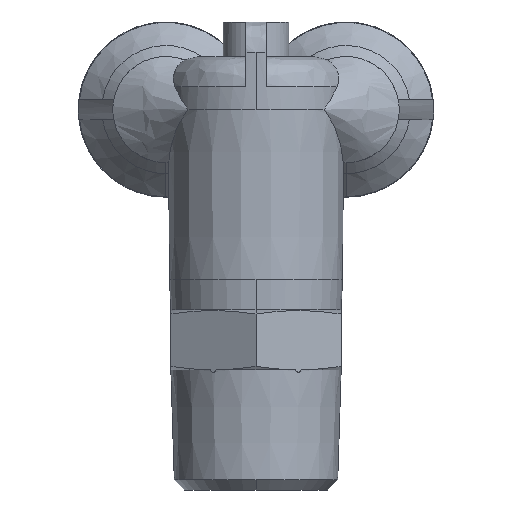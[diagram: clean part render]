
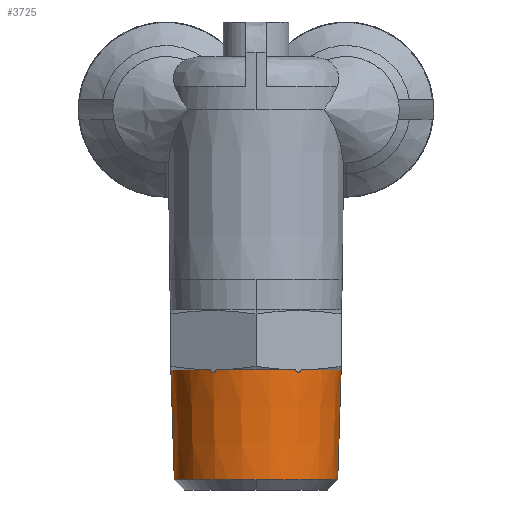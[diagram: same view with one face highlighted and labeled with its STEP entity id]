
A CAD part, left-side view. The second image highlights one B-rep face of the part: STEP entity #3725.
In plain terms, the highlighted conical face has half-angle 1.79 degrees and reference radius 8.508 mm.
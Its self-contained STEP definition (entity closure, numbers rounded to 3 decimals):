
#6 = ORIENTED_EDGE ( 'NONE', *, *, #3081, .F. ) ;
#61 = DIRECTION ( 'NONE',  ( 0., -1., 0. ) ) ;
#95 = CIRCLE ( 'NONE', #1120, 8.508 ) ;
#112 = VERTEX_POINT ( 'NONE', #905 ) ;
#212 = CARTESIAN_POINT ( 'NONE',  ( 0., -8.5, 11.758 ) ) ;
#284 = DIRECTION ( 'NONE',  ( 0., -0.031, 1. ) ) ;
#306 = DIRECTION ( 'NONE',  ( 0., 0., 1. ) ) ;
#363 = CARTESIAN_POINT ( 'NONE',  ( -7.398, -4.186, 11.758 ) ) ;
#385 = CARTESIAN_POINT ( 'NONE',  ( 0., 0., 12. ) ) ;
#449 = EDGE_CURVE ( 'NONE', #1686, #932, #3644, .T. ) ;
#453 = ORIENTED_EDGE ( 'NONE', *, *, #546, .T. ) ;
#468 = CARTESIAN_POINT ( 'NONE',  ( -7.323, -4.316, 11.758 ) ) ;
#506 = CARTESIAN_POINT ( 'NONE',  ( -0.314, 8.5, 11.94 ) ) ;
#518 = ORIENTED_EDGE ( 'NONE', *, *, #5290, .T. ) ;
#528 = CARTESIAN_POINT ( 'NONE',  ( -7.518, 3.978, 11.94 ) ) ;
#535 = CARTESIAN_POINT ( 'NONE',  ( -7.182, -4.561, 12. ) ) ;
#546 = EDGE_CURVE ( 'NONE', #3977, #3742, #4835, .T. ) ;
#556 = CARTESIAN_POINT ( 'NONE',  ( -7.228, -4.48, 11.884 ) ) ;
#579 = CARTESIAN_POINT ( 'NONE',  ( -7.182, -4.561, 12. ) ) ;
#584 = LINE ( 'NONE', #872, #3948 ) ;
#648 = CARTESIAN_POINT ( 'NONE',  ( 0., 0., 12. ) ) ;
#652 = CARTESIAN_POINT ( 'NONE',  ( -0.264, -8.5, 11.883 ) ) ;
#698 = VERTEX_POINT ( 'NONE', #579 ) ;
#716 = CARTESIAN_POINT ( 'NONE',  ( -0.359, -8.5, 12. ) ) ;
#729 = CARTESIAN_POINT ( 'NONE',  ( -7.287, -4.378, 11.793 ) ) ;
#772 = EDGE_LOOP ( 'NONE', ( #6, #2988, #4557, #5064, #4428, #879, #1004, #1304, #453, #1561, #518 ) ) ;
#852 = CIRCLE ( 'NONE', #5065, 8.508 ) ;
#865 = EDGE_CURVE ( 'NONE', #112, #4495, #3978, .T. ) ;
#872 = CARTESIAN_POINT ( 'NONE',  ( 0., 8.508, 12. ) ) ;
#879 = ORIENTED_EDGE ( 'NONE', *, *, #2030, .F. ) ;
#905 = CARTESIAN_POINT ( 'NONE',  ( 0., 8.164, 1.014 ) ) ;
#932 = VERTEX_POINT ( 'NONE', #212 ) ;
#1004 = ORIENTED_EDGE ( 'NONE', *, *, #1449, .T. ) ;
#1114 = DIRECTION ( 'NONE',  ( -0.036, 0.999, 0. ) ) ;
#1120 = AXIS2_PLACEMENT_3D ( 'NONE', #4193, #4839, #4797 ) ;
#1135 = DIRECTION ( 'NONE',  ( -0.998, 0.065, 0. ) ) ;
#1155 = DIRECTION ( 'NONE',  ( 0., 0., 1. ) ) ;
#1157 = EDGE_CURVE ( 'NONE', #3977, #3971, #95, .T. ) ;
#1303 = CARTESIAN_POINT ( 'NONE',  ( -0.314, -8.5, 11.94 ) ) ;
#1304 = ORIENTED_EDGE ( 'NONE', *, *, #1157, .F. ) ;
#1337 = VECTOR ( 'NONE', #284, 1000. ) ;
#1449 = EDGE_CURVE ( 'NONE', #698, #3971, #4916, .T. ) ;
#1517 = CARTESIAN_POINT ( 'NONE',  ( -0.359, 8.5, 12. ) ) ;
#1554 = CARTESIAN_POINT ( 'NONE',  ( -7.288, 4.376, 11.791 ) ) ;
#1561 = ORIENTED_EDGE ( 'NONE', *, *, #5560, .F. ) ;
#1576 = CARTESIAN_POINT ( 'NONE',  ( -7.204, 4.522, 11.94 ) ) ;
#1596 = CARTESIAN_POINT ( 'NONE',  ( -7.229, 4.479, 11.883 ) ) ;
#1637 = CARTESIAN_POINT ( 'NONE',  ( -7.182, 4.561, 12. ) ) ;
#1639 = CARTESIAN_POINT ( 'NONE',  ( -7.541, -3.939, 12. ) ) ;
#1660 = CARTESIAN_POINT ( 'NONE',  ( -7.204, -4.522, 11.94 ) ) ;
#1683 = CARTESIAN_POINT ( 'NONE',  ( -7.518, -3.978, 11.94 ) ) ;
#1684 = CARTESIAN_POINT ( 'NONE',  ( -0.075, -8.5, 11.758 ) ) ;
#1686 = VERTEX_POINT ( 'NONE', #1953 ) ;
#1765 = CARTESIAN_POINT ( 'NONE',  ( -7.541, 3.939, 12. ) ) ;
#1847 = CARTESIAN_POINT ( 'NONE',  ( -0.147, 8.5, 11.792 ) ) ;
#1902 = VERTEX_POINT ( 'NONE', #2515 ) ;
#1953 = CARTESIAN_POINT ( 'NONE',  ( 0., -8.164, 1.014 ) ) ;
#1978 = CARTESIAN_POINT ( 'NONE',  ( -7.399, 4.184, 11.758 ) ) ;
#2030 = EDGE_CURVE ( 'NONE', #698, #4536, #852, .T. ) ;
#2056 = CARTESIAN_POINT ( 'NONE',  ( -7.434, -4.124, 11.791 ) ) ;
#2151 = CARTESIAN_POINT ( 'NONE',  ( 0., -8.508, 12. ) ) ;
#2204 = CARTESIAN_POINT ( 'NONE',  ( 0., 0., 1.014 ) ) ;
#2247 = CARTESIAN_POINT ( 'NONE',  ( 0., 0., 12. ) ) ;
#2270 = CARTESIAN_POINT ( 'NONE',  ( 0., 8.5, 11.758 ) ) ;
#2287 = AXIS2_PLACEMENT_3D ( 'NONE', #2247, #2677, #61 ) ;
#2398 = DIRECTION ( 'NONE',  ( 0., 0., 1. ) ) ;
#2515 = CARTESIAN_POINT ( 'NONE',  ( 0., 8.5, 11.758 ) ) ;
#2576 = FACE_OUTER_BOUND ( 'NONE', #772, .T. ) ;
#2612 = EDGE_CURVE ( 'NONE', #932, #4536, #3048, .T. ) ;
#2677 = DIRECTION ( 'NONE',  ( 0., 0., 1. ) ) ;
#2686 = CARTESIAN_POINT ( 'NONE',  ( -0.359, 8.5, 12. ) ) ;
#2942 = VERTEX_POINT ( 'NONE', #1517 ) ;
#2988 = ORIENTED_EDGE ( 'NONE', *, *, #865, .T. ) ;
#3036 = DIRECTION ( 'NONE',  ( 0., 0.031, 1. ) ) ;
#3048 = B_SPLINE_CURVE_WITH_KNOTS ( 'NONE', 3,
 ( #3520, #1684, #3432, #652, #1303, #716 ),
 .UNSPECIFIED., .F., .F.,
 ( 4, 2, 4 ),
 ( 0., 0.001, 0.001 ),
 .UNSPECIFIED. ) ;
#3081 = EDGE_CURVE ( 'NONE', #112, #1902, #584, .T. ) ;
#3083 = B_SPLINE_CURVE_WITH_KNOTS ( 'NONE', 3,
 ( #2686, #506, #4454, #1847, #4868, #2270 ),
 .UNSPECIFIED., .F., .F.,
 ( 4, 2, 4 ),
 ( 0., 0., 0. ),
 .UNSPECIFIED. ) ;
#3391 = AXIS2_PLACEMENT_3D ( 'NONE', #4976, #2398, #5374 ) ;
#3428 = CARTESIAN_POINT ( 'NONE',  ( -7.494, 4.02, 11.884 ) ) ;
#3432 = CARTESIAN_POINT ( 'NONE',  ( -0.146, -8.5, 11.792 ) ) ;
#3469 = CONICAL_SURFACE ( 'NONE', #2287, 8.508, 0.031 ) ;
#3498 = EDGE_CURVE ( 'NONE', #4495, #1686, #3945, .T. ) ;
#3520 = CARTESIAN_POINT ( 'NONE',  ( 0., -8.5, 11.758 ) ) ;
#3644 = LINE ( 'NONE', #2151, #1337 ) ;
#3690 = CARTESIAN_POINT ( 'NONE',  ( -7.435, 4.122, 11.793 ) ) ;
#3725 = ADVANCED_FACE ( '124', ( #2576 ), #3469, .T. ) ;
#3729 = DIRECTION ( 'NONE',  ( 0., 0., 1. ) ) ;
#3742 = VERTEX_POINT ( 'NONE', #4447 ) ;
#3786 = CARTESIAN_POINT ( 'NONE',  ( -7.324, 4.314, 11.758 ) ) ;
#3945 = CIRCLE ( 'NONE', #3391, 8.164 ) ;
#3946 = CARTESIAN_POINT ( 'NONE',  ( -8.164, 0., 1.014 ) ) ;
#3948 = VECTOR ( 'NONE', #3036, 1000. ) ;
#3957 = CARTESIAN_POINT ( 'NONE',  ( -7.541, 3.939, 12. ) ) ;
#3971 = VERTEX_POINT ( 'NONE', #4378 ) ;
#3977 = VERTEX_POINT ( 'NONE', #1765 ) ;
#3978 = CIRCLE ( 'NONE', #4990, 8.164 ) ;
#4038 = CARTESIAN_POINT ( 'NONE',  ( -0.359, -8.5, 12. ) ) ;
#4193 = CARTESIAN_POINT ( 'NONE',  ( 0., 0., 12. ) ) ;
#4238 = CARTESIAN_POINT ( 'NONE',  ( -7.493, -4.021, 11.883 ) ) ;
#4263 = DIRECTION ( 'NONE',  ( -0.847, -0.531, 0. ) ) ;
#4378 = CARTESIAN_POINT ( 'NONE',  ( -7.541, -3.939, 12. ) ) ;
#4428 = ORIENTED_EDGE ( 'NONE', *, *, #2612, .T. ) ;
#4447 = CARTESIAN_POINT ( 'NONE',  ( -7.182, 4.561, 12. ) ) ;
#4454 = CARTESIAN_POINT ( 'NONE',  ( -0.265, 8.5, 11.884 ) ) ;
#4495 = VERTEX_POINT ( 'NONE', #3946 ) ;
#4536 = VERTEX_POINT ( 'NONE', #4038 ) ;
#4557 = ORIENTED_EDGE ( 'NONE', *, *, #3498, .T. ) ;
#4797 = DIRECTION ( 'NONE',  ( -0.884, 0.468, 0. ) ) ;
#4831 = AXIS2_PLACEMENT_3D ( 'NONE', #648, #3729, #1114 ) ;
#4835 = B_SPLINE_CURVE_WITH_KNOTS ( 'NONE', 3,
 ( #3957, #528, #3428, #3690, #1978, #3786, #1554, #1596, #1576, #1637 ),
 .UNSPECIFIED., .F., .F.,
 ( 4, 2, 2, 2, 4 ),
 ( 0., 0., 0., 0.001, 0.001 ),
 .UNSPECIFIED. ) ;
#4839 = DIRECTION ( 'NONE',  ( 0., 0., 1. ) ) ;
#4868 = CARTESIAN_POINT ( 'NONE',  ( -0.075, 8.5, 11.758 ) ) ;
#4916 = B_SPLINE_CURVE_WITH_KNOTS ( 'NONE', 3,
 ( #535, #1660, #556, #729, #468, #363, #2056, #4238, #1683, #1639 ),
 .UNSPECIFIED., .F., .F.,
 ( 4, 2, 2, 2, 4 ),
 ( 0., 0., 0., 0.001, 0.001 ),
 .UNSPECIFIED. ) ;
#4976 = CARTESIAN_POINT ( 'NONE',  ( 0., 0., 1.014 ) ) ;
#4990 = AXIS2_PLACEMENT_3D ( 'NONE', #2204, #1155, #1135 ) ;
#5064 = ORIENTED_EDGE ( 'NONE', *, *, #449, .T. ) ;
#5065 = AXIS2_PLACEMENT_3D ( 'NONE', #385, #306, #4263 ) ;
#5102 = CIRCLE ( 'NONE', #4831, 8.508 ) ;
#5290 = EDGE_CURVE ( 'NONE', #2942, #1902, #3083, .T. ) ;
#5374 = DIRECTION ( 'NONE',  ( -0.998, 0.065, 0. ) ) ;
#5560 = EDGE_CURVE ( 'NONE', #2942, #3742, #5102, .T. ) ;
